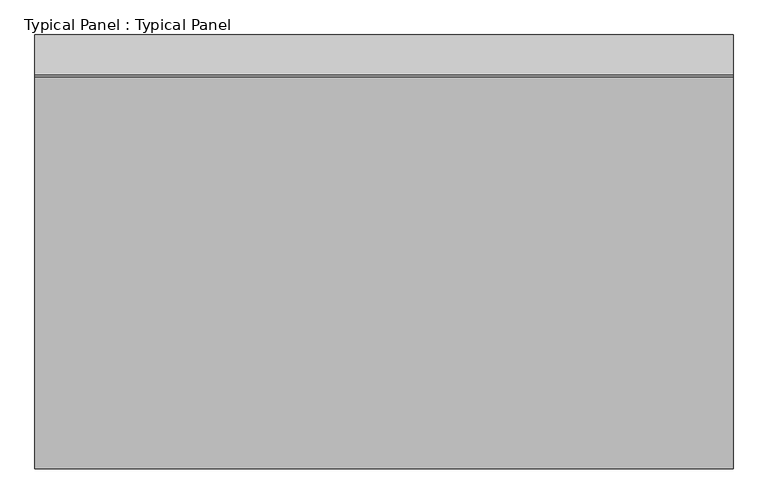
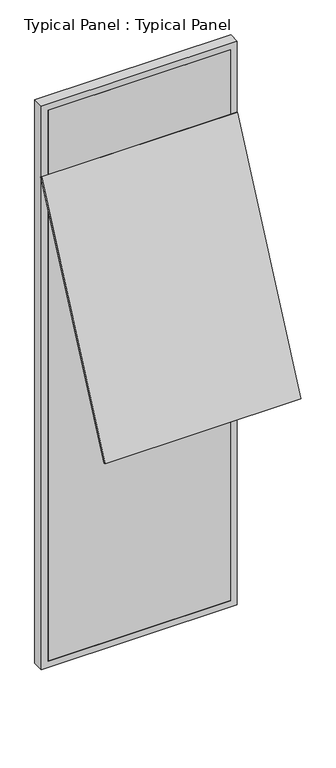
"""IFC4 building model written with IfcOpenShell, lengths in millimetres: plate geometry, Typical Panel : Typical Panel."""

import ifcopenshell
import ifcopenshell.guid

model = None  # the IFC model being written
_history = None  # IfcOwnerHistory: only IFC2X3 demands one
_inside = {}  # id of a spatial element -> (the spatial element, [elements in it])
_under = {}  # id of a project, library or spatial element -> (it, [spatial elements below it])
_declared = {}  # id of a project -> (the project, [libraries it declares])
_typed = {}  # id of a type object -> (the type object, [elements of that type])
_made_of = {}  # id of a material, layer set ... -> (it, [elements and type objects made of it])


def new_model(schema):
    """Start an empty IFC model of exactly this schema.

    Asked for "IFC4X3", IfcOpenShell would pick the latest addendum, in which some entities
    have other attributes; the version numbers below select the first issue.
    IFC2X3 requires an IfcOwnerHistory on every rooted entity: one is made here for all.
    """
    global model, _history
    if schema == "IFC4X3":
        model = ifcopenshell.file(schema_version=(4, 3, 0, 0))
    else:
        model = ifcopenshell.file(schema=schema)
    _inside.clear()
    _under.clear()
    _declared.clear()
    _typed.clear()
    _made_of.clear()
    _history = None
    if model.schema == "IFC2X3":
        org = make("IfcOrganization", Name="unknown")
        user = make(
            "IfcPersonAndOrganization",
            ThePerson=make("IfcPerson", FamilyName="unknown"),
            TheOrganization=org,
        )
        app = make(
            "IfcApplication",
            ApplicationDeveloper=org,
            Version="unknown",
            ApplicationFullName="unknown",
            ApplicationIdentifier="unknown",
        )
        _history = make(
            "IfcOwnerHistory",
            OwningUser=user,
            OwningApplication=app,
            ChangeAction="ADDED",
            CreationDate=0,
        )
    return model


def make(cls, **values):
    """One entity of the class cls with the attributes given. An attribute that is None is left unset."""
    return model.create_entity(
        cls, **{name: value for name, value in values.items() if value is not None}
    )


def rooted(cls, **values):
    """An entity with a GlobalId (a new one), such as an element, a storey or a relation."""
    return make(cls, GlobalId=ifcopenshell.guid.new(), OwnerHistory=_history, **values)


def si_unit(unit_type, name, prefix=None):
    """IfcSIUnit, for example si_unit("LENGTHUNIT", "METRE", prefix="MILLI")."""
    return make("IfcSIUnit", UnitType=unit_type, Prefix=prefix, Name=name)


def assignment(units):
    """IfcUnitAssignment: the units of a project."""
    return None if units is None else make("IfcUnitAssignment", Units=units)


def point(xyz):
    """IfcCartesianPoint."""
    return None if xyz is None else make("IfcCartesianPoint", Coordinates=xyz)


def direction(xyz):
    """IfcDirection."""
    return None if xyz is None else make("IfcDirection", DirectionRatios=xyz)


def frame(location, z_axis=None, x_axis=None):
    """IfcAxis2Placement3D, a coordinate frame: its origin and axes. An axis left out is left unset."""
    return make(
        "IfcAxis2Placement3D",
        Location=point(location),
        Axis=direction(z_axis),
        RefDirection=direction(x_axis),
    )


def origin():
    """The frame at (0, 0, 0) with its axes left unset."""
    return frame((0.0, 0.0, 0.0))


def place(relative_to, where):
    """IfcLocalPlacement: puts the frame where relative to a parent placement (None: the world)."""
    return make(
        "IfcLocalPlacement", PlacementRelTo=relative_to, RelativePlacement=where
    )


def context(
    kind, dimensions, precision=None, world=None, true_north=None, identifier=None
):
    """IfcGeometricRepresentationContext, for example the 3D "Model" context."""
    return make(
        "IfcGeometricRepresentationContext",
        ContextIdentifier=identifier,
        ContextType=kind,
        CoordinateSpaceDimension=dimensions,
        Precision=precision,
        WorldCoordinateSystem=world,
        TrueNorth=true_north,
    )


def project(units=None, contexts=None):
    """IfcProject with its units and contexts."""
    return rooted(
        "IfcProject",
        Name="project",
        RepresentationContexts=contexts,
        UnitsInContext=assignment(units),
    )


def spatial(cls, under=None, at=None, **own):
    """A site, building, storey or space (cls), placed at a placement, below another one or the project."""
    s = rooted(cls, ObjectPlacement=at, **own)
    if under is not None:
        _under.setdefault(under.id(), (under, []))[1].append(s)
    return s


def polyline(points):
    """IfcPolyline through the points."""
    return make("IfcPolyline", Points=[point(p) for p in points])


def outline(outer, holes=None, kind="AREA"):
    """IfcArbitraryClosedProfileDef: a profile drawn as a closed curve; with holes, ...WithVoids."""
    if holes is None:
        return make("IfcArbitraryClosedProfileDef", ProfileType=kind, OuterCurve=outer)
    return make(
        "IfcArbitraryProfileDefWithVoids",
        ProfileType=kind,
        OuterCurve=outer,
        InnerCurves=holes,
    )


def extrude(swept, where, along, depth):
    """IfcExtrudedAreaSolid: the profile swept, set in the frame where, extruded along a direction by depth."""
    return make(
        "IfcExtrudedAreaSolid",
        SweptArea=swept,
        Position=where,
        ExtrudedDirection=direction(along),
        Depth=depth,
    )


def shape(context_of_items, identifier, shape_type, items):
    """IfcShapeRepresentation: the items that make up one representation, for example the "Body"."""
    return make(
        "IfcShapeRepresentation",
        ContextOfItems=context_of_items,
        RepresentationIdentifier=identifier,
        RepresentationType=shape_type,
        Items=items,
    )


def source(mapping_origin, context_of_items, identifier, shape_type, items):
    """IfcRepresentationMap: a shape defined once, which mapped items show again and again."""
    return make(
        "IfcRepresentationMap",
        MappingOrigin=mapping_origin,
        MappedRepresentation=shape(context_of_items, identifier, shape_type, items),
    )


def transform(
    local_origin,
    x_axis=None,
    y_axis=None,
    z_axis=None,
    scale=None,
    scale2=None,
    scale3=None,
    uniform=True,
):
    """IfcCartesianTransformationOperator3D, or its non-uniform kind. x_axis, y_axis, z_axis: its Axis1, 2, 3."""
    if uniform:
        return make(
            "IfcCartesianTransformationOperator3D",
            Axis1=direction(x_axis),
            Axis2=direction(y_axis),
            LocalOrigin=point(local_origin),
            Scale=scale,
            Axis3=direction(z_axis),
        )
    return make(
        "IfcCartesianTransformationOperator3DnonUniform",
        Axis1=direction(x_axis),
        Axis2=direction(y_axis),
        LocalOrigin=point(local_origin),
        Scale=scale,
        Axis3=direction(z_axis),
        Scale2=scale2,
        Scale3=scale3,
    )


def mapped(mapping_source, mapping_target):
    """IfcMappedItem: shows the shape of a source again, moved by a transform."""
    return make(
        "IfcMappedItem", MappingSource=mapping_source, MappingTarget=mapping_target
    )


def made_of(thing, what):
    """Note that an element or type object is made of a material, layer set ...; save() writes the relation."""
    if what is not None:
        _made_of.setdefault(what.id(), (what, []))[1].append(thing)
    return thing


def element(
    cls,
    number,
    at=None,
    inside=None,
    cuts=None,
    type_object=None,
    material=None,
    context=None,
    identifier="Body",
    shape_type=None,
    held_by="IfcProductDefinitionShape",
    body=None,
    shapes=None,
    **own,
):
    """One element of the class cls, such as IfcWall. Its Tag is "e" and its number.

    at: its placement. inside: the storey or other place that contains it. cuts: it is an
    opening in that element (IfcRelVoidsElement). A single representation is given by context,
    identifier, shape_type and body (its items); several are given by shapes. held_by: the class
    of the entity that holds the representations. save() writes the other relations.
    """
    e = rooted(cls, Tag="e%d" % number, ObjectPlacement=at, **own)
    if body is not None:
        shapes = [shape(context, identifier, shape_type, body)]
    if shapes is not None:
        e.Representation = make(held_by, Representations=shapes)
    if inside is not None:
        _inside.setdefault(inside.id(), (inside, []))[1].append(e)
    if cuts is not None:
        rooted(
            "IfcRelVoidsElement", RelatingBuildingElement=cuts, RelatedOpeningElement=e
        )
    if type_object is not None:
        _typed.setdefault(type_object.id(), (type_object, []))[1].append(e)
    return made_of(e, material)


def aggregate(whole, parts):
    """IfcRelAggregates: a whole, such as a stair, and the parts it consists of."""
    return rooted("IfcRelAggregates", RelatingObject=whole, RelatedObjects=parts)


def save(model, path):
    """Write the relations noted so far, then the file.

    IfcRelAggregates (storeys below a building ...), IfcRelContainedInSpatialStructure (elements
    in a storey), IfcRelDefinesByType, IfcRelAssociatesMaterial and IfcRelDeclares: one each for
    every whole, place, type object, material and project.
    """
    for whole, parts in _under.values():
        aggregate(whole, parts)
    for where, things in _inside.values():
        rooted(
            "IfcRelContainedInSpatialStructure",
            RelatedElements=things,
            RelatingStructure=where,
        )
    for kind, things in _typed.values():
        rooted("IfcRelDefinesByType", RelatedObjects=things, RelatingType=kind)
    for what, things in _made_of.values():
        rooted("IfcRelAssociatesMaterial", RelatedObjects=things, RelatingMaterial=what)
    for by, libraries in _declared.values():
        rooted("IfcRelDeclares", RelatingContext=by, RelatedDefinitions=libraries)
    model.write(path)


def typical_panel_typical_panel_1a510bae(model_context):
    return source(origin(), model_context, "Body", "SweptSolid", [
        extrude(outline(polyline([(0.0, -9.9999999), (0.0, 0.0), (1317.1916898, 0.0), (1317.1916898, -9.9999999), (0.0, -9.9999999)])), frame((658.5958449, -744.581958, 1913.9613727), z_axis=(0.0, 0.4226182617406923, 0.9063077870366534), x_axis=(-1.0, 0.0, 0.0)), (0.0, 0.0, 1.0), 1750.0),
        extrude(outline(polyline([(0.0, -658.5958449), (0.0, 658.5958449), (4000.0, 658.5958449), (4000.0, -658.5958449), (0.0, -658.5958449)]), holes=[polyline([(45.0, 613.5958449), (45.0, -613.5958449), (3955.0, -613.5958449), (3955.0, 613.5958449), (45.0, 613.5958449)])]), frame((0.0, -1.5797986, 0.0), z_axis=(0.0, 1.0, 0.0), x_axis=(0.0, 0.0, 1.0)), (0.0, 0.0, 1.0), 75.0),
        extrude(outline(polyline([(613.5958449, -1.5797986), (-613.5958449, -1.5797986), (-613.5958449, 13.4202014), (613.5958449, 13.4202014), (613.5958449, -1.5797986)])), frame((0.0, 0.0, 45.0), z_axis=(0.0, 0.0, 1.0), x_axis=(1.0, 0.0, 0.0)), (0.0, 0.0, 1.0), 3910.0),
    ])


if __name__ == "__main__":
    model = new_model("IFC4")
    model_context = context("Model", 3, world=origin())
    ifc_project = project(units=[si_unit("LENGTHUNIT", "METRE", prefix="MILLI")], contexts=[model_context])
    site = spatial("IfcSite", under=ifc_project)
    building = spatial("IfcBuilding", under=site)
    placement = place(None, origin())
    typical_panel_typical_panel_shape = typical_panel_typical_panel_1a510bae(model_context)
    element("IfcPlate", 1, ObjectType="Typical Panel : Typical Panel", at=placement, inside=building, context=model_context, shape_type="MappedRepresentation", body=[
        mapped(typical_panel_typical_panel_shape, transform((0.0, 0.0, 0.0), x_axis=(1.0, 0.0, 0.0), y_axis=(0.0, 1.0, 0.0), z_axis=(0.0, 0.0, 1.0))),
    ])
    save(model, "model.ifc")
